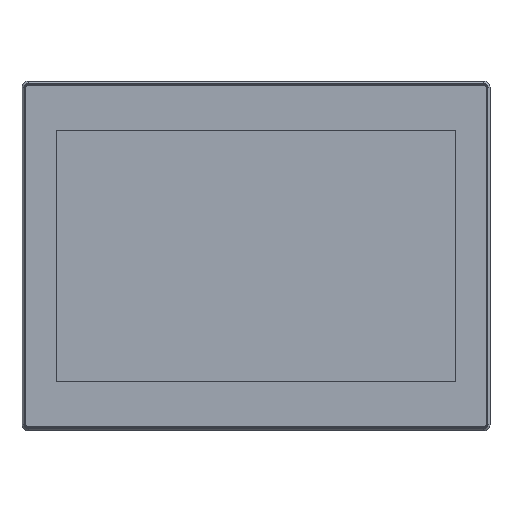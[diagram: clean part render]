
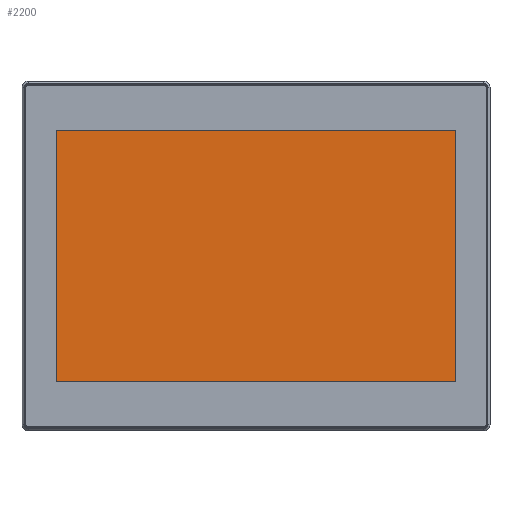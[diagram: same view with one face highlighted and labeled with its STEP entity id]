
A CAD part, top view. The second image highlights one B-rep face of the part: STEP entity #2200.
In plain terms, the highlighted planar face has unit normal (0, 0, 1).
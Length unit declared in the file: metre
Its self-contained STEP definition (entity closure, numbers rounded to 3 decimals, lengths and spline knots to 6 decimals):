
#2200=ADVANCED_FACE('2:451587',(#7295),#7296,.T.);
#7295=FACE_OUTER_BOUND('',#16412,.T.);
#7296=PLANE('',#16413);
#16412=EDGE_LOOP('',(#36607,#36608,#36609,#36610));
#16413=AXIS2_PLACEMENT_3D('',#36611,#36612,#36613);
#36607=ORIENTED_EDGE('',*,*,#49244,.T.);
#36608=ORIENTED_EDGE('',*,*,#49245,.T.);
#36609=ORIENTED_EDGE('',*,*,#49246,.T.);
#36610=ORIENTED_EDGE('',*,*,#49247,.T.);
#36611=CARTESIAN_POINT('',(0.15425,0.11525,0.064125));
#36612=DIRECTION('',(0.0,0.0,1.0));
#36613=DIRECTION('',(1.0,0.0,0.0));
#49244=EDGE_CURVE('2:469791',#61183,#61184,#61185,.T.);
#49245=EDGE_CURVE('2:469794',#61184,#61186,#61187,.T.);
#49246=EDGE_CURVE('2:469797',#61186,#61188,#61189,.T.);
#49247=EDGE_CURVE('2:469800',#61188,#61183,#61190,.T.);
#61183=VERTEX_POINT('',#83694);
#61184=VERTEX_POINT('',#83695);
#61185=LINE('',#83696,#83697);
#61186=VERTEX_POINT('',#83698);
#61187=LINE('',#83699,#83700);
#61188=VERTEX_POINT('',#83701);
#61189=LINE('',#83702,#83703);
#61190=LINE('',#83704,#83705);
#83694=CARTESIAN_POINT('',(0.02254,0.19785,0.064125));
#83695=CARTESIAN_POINT('',(0.02254,0.03265,0.064125));
#83696=CARTESIAN_POINT('',(0.02254,0.19785,0.064125));
#83697=VECTOR('',#97104,0.001);
#83698=CARTESIAN_POINT('',(0.28596,0.03265,0.064125));
#83699=CARTESIAN_POINT('',(0.02254,0.03265,0.064125));
#83700=VECTOR('',#97105,0.001);
#83701=CARTESIAN_POINT('',(0.28596,0.19785,0.064125));
#83702=CARTESIAN_POINT('',(0.28596,0.19785,0.064125));
#83703=VECTOR('',#97106,0.001);
#83704=CARTESIAN_POINT('',(0.02254,0.19785,0.064125));
#83705=VECTOR('',#97107,0.001);
#97104=DIRECTION('',(0.0,-1.0,0.0));
#97105=DIRECTION('',(1.0,0.,0.0));
#97106=DIRECTION('',(0.0,1.0,0.0));
#97107=DIRECTION('',(-1.0,0.,0.0));
